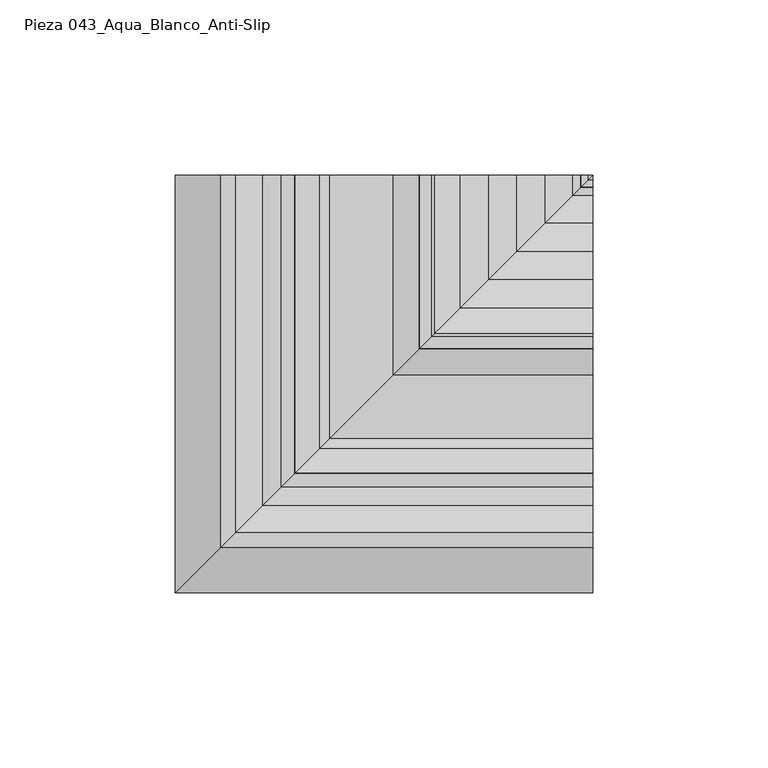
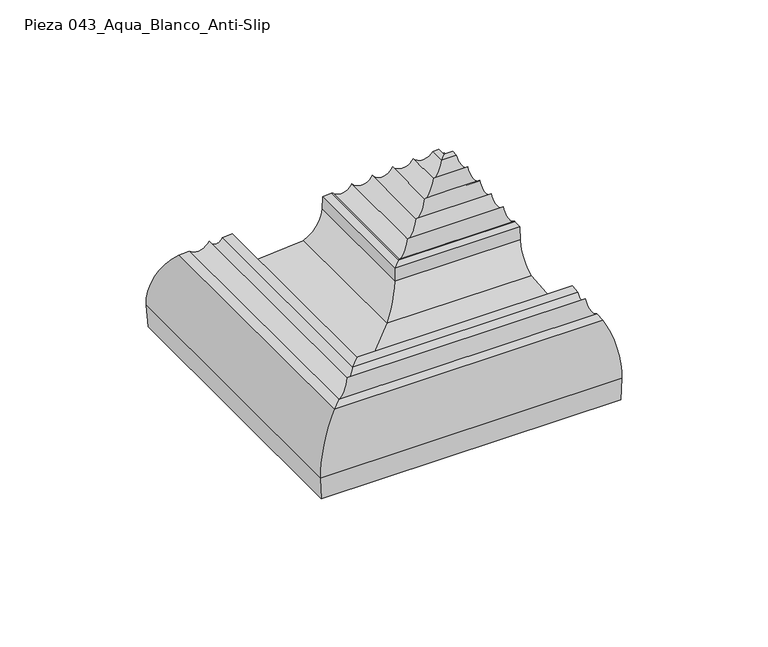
"""IFC4 building model written with IfcOpenShell, lengths in millimetres: proxy geometry, ROSA GRES_043 : Pieza 043_Aqua_Blanco_Anti-Slip."""

from ifc_helpers import new_model, si_unit, frame, origin, place, context, project, spatial, polyline, circle_curve, ellipse_curve, source, transform, mapped, element, save
from ifc_brep_helpers import plane_surface, cylinder_surface, revolved_surface, advanced_brep


def pieza_043_aqua_blanco_anti_slip_ae11da6b(model_context):
    return source(origin(), model_context, "Body", "AdvancedBrep", [
        advanced_brep(
        [(14.4453652, 119.0, 174.3159971), (0.7606998, 119.0, 173.202129), (0.0, 119.0, 182.547869), (12.8459835, 119.0, 198.875801), (17.0075724, 119.0, 199.1796191), (24.7958268, 119.0, 200.6193952), (30.0056531, 119.0, 200.1538709), (33.9473302, 119.0, 200.4746837), (37.253141, 119.0, 176.172444), (118.9496499, 14.4957154, 174.3159971), (118.9496499, 37.3034911, 176.172444), (118.9496499, 33.9976804, 200.4746837), (118.9496499, 30.0560033, 200.1538709), (118.9496499, 24.8461769, 200.6193952), (118.9496499, 17.0579226, 199.1796191), (118.9496499, 12.8963336, 198.875801), (118.9496499, 0.0503501, 182.547869), (118.9496499, 0.8110499, 173.202129), (14.4453652, 14.4957154, 174.3159971), (0.7606998, 0.8110499, 173.202129), (0.0, 0.0503501, 182.547869), (12.8459835, 12.8963336, 198.875801), (17.0075724, 17.0579226, 199.1796191), (24.7958268, 24.8461769, 200.6193952), (30.0056531, 30.0560033, 200.1538709), (33.9473302, 33.9976804, 200.4746837), (37.253141, 37.3034911, 176.172444)],
        [
            (0, 1),
            (1, 2),
            (2, 3, circle_curve(frame((15.2247132, 119.0, 183.7870899), z_axis=(0.0, 1.0, 0.0), x_axis=(-1.0, 0.0, 0.0)), 15.2750633)),
            (3, 4),
            (4, 5, circle_curve(frame((20.3719636, 119.0, 202.7650351), z_axis=(0.0, -1.0, 0.0), x_axis=(-1.0, 0.0, 0.0)), 4.9167404)),
            (5, 6, circle_curve(frame((27.4682931, 119.0, 201.142641), z_axis=(0.0, -1.0, 0.0), x_axis=(-1.0, 0.0, 0.0)), 2.7232081)),
            (6, 7),
            (7, 8),
            (8, 0, circle_curve(frame((26.0256757, 119.0, 173.0767428), z_axis=(0.0, -1.0, 0.0), x_axis=(-1.0, 0.0, 0.0)), 11.6464304)),
            (9, 10, circle_curve(frame((118.9496499, 26.0760259, 173.0767428), z_axis=(-1.0, 0.0, 0.0), x_axis=(0.0, -1.0, 0.0)), 11.6464304)),
            (10, 11),
            (11, 12),
            (12, 13, circle_curve(frame((118.9496499, 27.5186432, 201.142641), z_axis=(-1.0, 0.0, 0.0), x_axis=(0.0, -1.0, 0.0)), 2.7232081)),
            (13, 14, circle_curve(frame((118.9496499, 20.4223138, 202.7650351), z_axis=(-1.0, 0.0, 0.0), x_axis=(0.0, -1.0, 0.0)), 4.9167404)),
            (14, 15),
            (15, 16, circle_curve(frame((118.9496499, 15.2750633, 183.7870899), z_axis=(1.0, 0.0, 0.0), x_axis=(0.0, -1.0, 0.0)), 15.2750633)),
            (16, 17),
            (17, 9),
            (0, 18),
            (18, 19),
            (19, 1),
            (19, 20),
            (20, 2),
            (20, 21, ellipse_curve(frame((15.2247132, 15.2750633, 183.7870899), z_axis=(-0.707106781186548, 0.7071067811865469, 0.0), x_axis=(0.7071067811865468, 0.7071067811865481, 0.0)), 21.6022017, 15.2750633)),
            (21, 3),
            (21, 22),
            (22, 4),
            (22, 23, ellipse_curve(frame((20.3719636, 20.4223138, 202.7650351), z_axis=(0.707106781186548, -0.7071067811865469, 0.0), x_axis=(-0.7071067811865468, -0.7071067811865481, 0.0)), 6.9533209, 4.9167404)),
            (23, 5),
            (23, 24, ellipse_curve(frame((27.4682931, 27.5186432, 201.142641), z_axis=(0.707106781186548, -0.7071067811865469, 0.0), x_axis=(-0.7071067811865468, -0.7071067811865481, 0.0)), 3.8511979, 2.7232081)),
            (24, 6),
            (24, 25),
            (25, 7),
            (25, 26),
            (26, 8),
            (26, 18, ellipse_curve(frame((26.0256757, 26.0760259, 173.0767428), z_axis=(0.707106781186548, -0.7071067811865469, 0.0), x_axis=(-0.7071067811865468, -0.7071067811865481, 0.0)), 16.4705399, 11.6464304)),
            (18, 9),
            (17, 19),
            (16, 20),
            (15, 21),
            (14, 22),
            (13, 23),
            (12, 24),
            (11, 25),
            (10, 26),
        ],
        [
            plane_surface(frame((-0.0503501, 119.0, 0.0), z_axis=(0.0, 1.0, 0.0), x_axis=(0.0, 0.0, 1.0))),
            plane_surface(frame((118.9496499, 0.0, 0.0), z_axis=(1.0, 0.0, 0.0), x_axis=(0.0, 0.0, 1.0))),
            plane_surface(frame((14.4453652, 119.0, 174.3159971), z_axis=(0.0811270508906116, 0.0, -0.9967037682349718), x_axis=(0.0, -1.0, 0.0))),
            plane_surface(frame((0.7606998, 119.0, 173.202129), z_axis=(-0.9967037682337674, 0.0, -0.08112705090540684), x_axis=(0.0, -1.0, 0.0))),
            cylinder_surface(frame((15.2247132, 119.0, 183.7870899), z_axis=(0.0, 1.0, 0.0), x_axis=(-1.0, 0.0, 0.0)), 15.2750633),
            plane_surface(frame((12.8459835, 119.0, 198.875801), z_axis=(-0.07281152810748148, 0.0, 0.9973457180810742), x_axis=(0.0, -1.0, 0.0))),
            revolved_surface(polyline([(15.4552232, 15.505573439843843, 202.7650351), (15.4552232, 119.0, 202.7650351)]), (20.3719636, 119.0, 202.7650351), (0.0, -1.0, 0.0)),
            revolved_surface(polyline([(24.745085, 24.79543504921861, 201.142641), (24.745085, 119.0, 201.142641)]), (27.4682931, 119.0, 201.142641), (0.0, -1.0, 0.0)),
            plane_surface(frame((30.0056531, 119.0, 200.1538709), z_axis=(-0.08112168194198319, 0.0, 0.9967042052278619), x_axis=(0.0, -1.0, 0.0))),
            plane_surface(frame((33.9473302, 119.0, 200.4746837), z_axis=(0.9908744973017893, 0.0, 0.13478772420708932), x_axis=(0.0, -1.0, 0.0))),
            revolved_surface(polyline([(14.379245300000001, 14.42959544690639, 173.0767428), (14.379245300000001, 119.0, 173.0767428)]), (26.0256757, 119.0, 173.0767428), (0.0, -1.0, 0.0)),
            plane_surface(frame((14.4453652, 14.4957154, 174.3159971), z_axis=(0.0, 0.0811270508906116, -0.9967037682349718), x_axis=(1.0, 0.0, 0.0))),
            plane_surface(frame((0.7606998, 0.8110499, 173.202129), z_axis=(0.0, -0.9967037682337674, -0.08112705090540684), x_axis=(1.0, 0.0, 0.0))),
            cylinder_surface(frame((-0.0503501, 15.2750633, 183.7870899), z_axis=(-1.0, 0.0, 0.0), x_axis=(0.0, -1.0, 0.0)), 15.2750633),
            plane_surface(frame((12.8459835, 12.8963336, 198.875801), z_axis=(0.0, -0.07281152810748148, 0.9973457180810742), x_axis=(1.0, 0.0, 0.0))),
            revolved_surface(polyline([(118.9496499, 15.505573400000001, 202.7650351), (15.455223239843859, 15.505573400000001, 202.7650351)]), (-0.0503501, 20.4223138, 202.7650351), (1.0, 0.0, 0.0)),
            revolved_surface(polyline([(118.9496499, 24.7954351, 201.142641), (24.74508494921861, 24.7954351, 201.142641)]), (-0.0503501, 27.5186432, 201.142641), (1.0, 0.0, 0.0)),
            plane_surface(frame((30.0056531, 30.0560033, 200.1538709), z_axis=(0.0, -0.08112168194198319, 0.9967042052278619), x_axis=(1.0, 0.0, 0.0))),
            plane_surface(frame((33.9473302, 33.9976804, 200.4746837), z_axis=(0.0, 0.9908744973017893, 0.13478772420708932), x_axis=(1.0, 0.0, 0.0))),
            revolved_surface(polyline([(118.9496499, 14.429595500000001, 173.0767428), (14.379245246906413, 14.429595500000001, 173.0767428)]), (-0.0503501, 26.0760259, 173.0767428), (1.0, 0.0, 0.0)),
        ],
        [
            (0, [[1, 2, 3, 4, 5, 6, 7, 8, 9]]),
            (1, [[10, 11, 12, 13, 14, 15, 16, 17, 18]]),
            (2, [[-1, 19, 20, 21]]),
            (3, [[-2, -21, 22, 23]]),
            (4, [[-3, -23, 24, 25]]),
            (5, [[-4, -25, 26, 27]]),
            (6, [[-5, -27, 28, 29]]),
            (7, [[-6, -29, 30, 31]]),
            (8, [[-7, -31, 32, 33]]),
            (9, [[-8, -33, 34, 35]]),
            (10, [[-9, -35, 36, -19]]),
            (11, [[-20, 37, -18, 38]]),
            (12, [[-22, -38, -17, 39]]),
            (13, [[-24, -39, -16, 40]]),
            (14, [[-26, -40, -15, 41]]),
            (15, [[-28, -41, -14, 42]]),
            (16, [[-30, -42, -13, 43]]),
            (17, [[-32, -43, -12, 44]]),
            (18, [[-34, -44, -11, 45]]),
            (19, [[-36, -45, -10, -37]]),
        ],
    ),
        advanced_brep(
        [(37.253141, 37.3034911, 176.172444), (33.9473302, 33.9976804, 200.4746837), (33.9473302, 119.0, 200.4746837), (37.253141, 119.0, 176.172444), (118.9496499, 37.3034911, 176.172444), (118.9496499, 33.9976804, 200.4746837), (41.0113038, 41.061654, 187.8896178), (41.0113038, 119.0, 187.8896178), (43.8961827, 43.9465329, 186.3216491), (43.8961827, 119.0, 186.3216491), (61.9386313, 61.9889815, 187.7902205), (61.9386313, 119.0, 187.7902205), (69.3734393, 69.4237894, 198.236672), (69.3734393, 119.0, 198.236672), (69.7290719, 69.7794221, 203.3871621), (69.7290719, 119.0, 203.3871621), (72.9835988, 73.033949, 203.6520655), (72.9835988, 119.0, 203.6520655), (73.7500971, 73.8004473, 203.3835555), (73.7500971, 119.0, 203.3835555), (81.0982828, 81.1486329, 204.8942251), (81.0982828, 119.0, 204.8942251), (89.1544888, 89.2048389, 205.555394), (89.1544888, 119.0, 205.555394), (97.2003042, 97.2506544, 206.1928503), (97.2003042, 119.0, 206.1928503), (105.3453041, 105.3956543, 206.836894), (105.3453041, 119.0, 206.836894), (113.1371807, 113.1875309, 207.0070959), (113.1371807, 119.0, 207.0070959), (115.4202539, 115.470604, 207.1930072), (115.4202539, 119.0, 207.1930072), (115.6049701, 115.6553202, 204.9236084), (115.6049701, 119.0, 204.9236084), (117.5520053, 117.6023554, 205.0820876), (117.5520053, 119.0, 205.0820876), (118.9496499, 119.0, 187.9110258), (118.9496499, 119.0, 182.8221596), (108.4134013, 108.4637515, 181.9645582), (108.4134013, 119.0, 181.9645582), (71.9209601, 71.9713103, 178.9942432), (71.9209601, 119.0, 178.9942432), (118.9496499, 41.061654, 187.8896178), (118.9496499, 43.9465329, 186.3216491), (118.9496499, 61.9889815, 187.7902205), (118.9496499, 69.4237894, 198.236672), (118.9496499, 69.7794221, 203.3871621), (118.9496499, 73.033949, 203.6520655), (118.9496499, 73.8004473, 203.3835555), (118.9496499, 81.1486329, 204.8942251), (118.9496499, 89.2048389, 205.555394), (118.9496499, 97.2506544, 206.1928503), (118.9496499, 105.3956543, 206.836894), (118.9496499, 113.1875309, 207.0070959), (118.9496499, 115.470604, 207.1930072), (118.9496499, 115.6553202, 204.9236084), (118.9496499, 117.6023554, 205.0820876), (118.9496499, 108.4637515, 181.9645582), (118.9496499, 71.9713103, 178.9942432)],
        [
            (0, 1),
            (1, 2),
            (2, 3),
            (3, 0),
            (0, 4),
            (4, 5),
            (5, 1),
            (1, 6, ellipse_curve(frame((107.0308257, 107.0811758, 233.2212806), z_axis=(0.707106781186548, -0.7071067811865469, 0.0), x_axis=(-0.7071067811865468, -0.7071067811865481, 0.0)), 113.2566723, 80.084561)),
            (6, 7),
            (7, 2, circle_curve(frame((107.0308257, 119.0, 233.2212806), z_axis=(0.0, 1.0, 0.0), x_axis=(-1.0, 0.0, 0.0)), 80.084561)),
            (6, 8, ellipse_curve(frame((43.6528016, 43.7031517, 189.3117604), z_axis=(0.707106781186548, -0.7071067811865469, 0.0), x_axis=(-0.7071067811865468, -0.7071067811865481, 0.0)), 4.2426407, 3.0)),
            (8, 9),
            (9, 7, circle_curve(frame((43.6528016, 119.0, 189.3117604), z_axis=(0.0, 1.0, 0.0), x_axis=(-1.0, 0.0, 0.0)), 3.0)),
            (8, 10),
            (10, 11),
            (11, 9),
            (10, 12, ellipse_curve(frame((57.1290983, 57.1794484, 199.0821231), z_axis=(0.707106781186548, -0.7071067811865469, 0.0), x_axis=(-0.7071067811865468, -0.7071067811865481, 0.0)), 17.3573428, 12.2734948)),
            (12, 13),
            (13, 11, circle_curve(frame((57.1290983, 119.0, 199.0821231), z_axis=(0.0, 1.0, 0.0), x_axis=(-1.0, 0.0, 0.0)), 12.2734948)),
            (12, 14),
            (14, 15),
            (15, 13),
            (14, 16),
            (16, 17),
            (17, 15),
            (16, 18, ellipse_curve(frame((73.0647259, 73.115076, 202.6553617), z_axis=(-0.707106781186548, 0.7071067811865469, 0.0), x_axis=(0.7071067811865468, 0.7071067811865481, 0.0)), 1.4142136, 1.0)),
            (18, 19),
            (19, 17, circle_curve(frame((73.0647259, 119.0, 202.6553617), z_axis=(0.0, -1.0, 0.0), x_axis=(-1.0, 0.0, 0.0)), 1.0)),
            (18, 20, ellipse_curve(frame((76.8929781, 76.9433283, 206.722806), z_axis=(0.707106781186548, -0.7071067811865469, 0.0), x_axis=(-0.7071067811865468, -0.7071067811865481, 0.0)), 6.4851052, 4.5856619)),
            (20, 21),
            (21, 19, circle_curve(frame((76.8929781, 119.0, 206.722806), z_axis=(0.0, 1.0, 0.0), x_axis=(-1.0, 0.0, 0.0)), 4.5856619)),
            (20, 22, ellipse_curve(frame((84.9491841, 84.9995343, 207.3839748), z_axis=(0.707106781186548, -0.7071067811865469, 0.0), x_axis=(-0.7071067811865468, -0.7071067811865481, 0.0)), 6.4851052, 4.5856619)),
            (22, 23),
            (23, 21, circle_curve(frame((84.9491841, 119.0, 207.3839748), z_axis=(0.0, 1.0, 0.0), x_axis=(-1.0, 0.0, 0.0)), 4.5856619)),
            (22, 24, ellipse_curve(frame((93.0053901, 93.0557403, 208.0451437), z_axis=(0.707106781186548, -0.7071067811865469, 0.0), x_axis=(-0.7071067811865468, -0.7071067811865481, 0.0)), 6.4851052, 4.5856619)),
            (24, 25),
            (25, 23, circle_curve(frame((93.0053901, 119.0, 208.0451437), z_axis=(0.0, 1.0, 0.0), x_axis=(-1.0, 0.0, 0.0)), 4.5856619)),
            (24, 26, ellipse_curve(frame((101.0644057, 101.1147559, 209.1504161), z_axis=(0.707106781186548, -0.7071067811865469, 0.0), x_axis=(-0.7071067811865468, -0.7071067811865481, 0.0)), 6.8816387, 4.8660534)),
            (26, 27),
            (27, 25, circle_curve(frame((101.0644057, 119.0, 209.1504161), z_axis=(0.0, 1.0, 0.0), x_axis=(-1.0, 0.0, 0.0)), 4.8660534)),
            (26, 28, ellipse_curve(frame((109.1785237, 109.2288739, 209.7932705), z_axis=(0.707106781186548, -0.7071067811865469, 0.0), x_axis=(-0.7071067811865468, -0.7071067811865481, 0.0)), 6.8459819, 4.8408403)),
            (28, 29),
            (29, 27, circle_curve(frame((109.1785237, 119.0, 209.7932705), z_axis=(0.0, 1.0, 0.0), x_axis=(-1.0, 0.0, 0.0)), 4.8408403)),
            (28, 30),
            (30, 31),
            (31, 29),
            (30, 32),
            (32, 33),
            (33, 31),
            (32, 34),
            (34, 35),
            (35, 33),
            (34, 36),
            (36, 35),
            (37, 38),
            (38, 39),
            (39, 37),
            (38, 40, ellipse_curve(frame((91.2336167, 91.2839669, 167.3774726), z_axis=(0.707106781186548, -0.7071067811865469, 0.0), x_axis=(-0.7071067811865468, -0.7071067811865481, 0.0)), 31.872498, 22.5372595)),
            (40, 41),
            (41, 39, circle_curve(frame((91.2336167, 119.0, 167.3774726), z_axis=(0.0, 1.0, 0.0), x_axis=(-1.0, 0.0, 0.0)), 22.5372595)),
            (40, 0),
            (3, 41),
            (5, 42, circle_curve(frame((118.9496499, 107.0811758, 233.2212806), z_axis=(1.0, 0.0, 0.0), x_axis=(0.0, -1.0, 0.0)), 80.084561)),
            (42, 6),
            (42, 43, circle_curve(frame((118.9496499, 43.7031517, 189.3117604), z_axis=(1.0, 0.0, 0.0), x_axis=(0.0, -1.0, 0.0)), 3.0)),
            (43, 8),
            (43, 44),
            (44, 10),
            (44, 45, circle_curve(frame((118.9496499, 57.1794484, 199.0821231), z_axis=(1.0, 0.0, 0.0), x_axis=(0.0, -1.0, 0.0)), 12.2734948)),
            (45, 12),
            (45, 46),
            (46, 14),
            (46, 47),
            (47, 16),
            (47, 48, circle_curve(frame((118.9496499, 73.115076, 202.6553617), z_axis=(-1.0, 0.0, 0.0), x_axis=(0.0, -1.0, 0.0)), 1.0)),
            (48, 18),
            (48, 49, circle_curve(frame((118.9496499, 76.9433283, 206.722806), z_axis=(1.0, 0.0, 0.0), x_axis=(0.0, -1.0, 0.0)), 4.5856619)),
            (49, 20),
            (49, 50, circle_curve(frame((118.9496499, 84.9995343, 207.3839748), z_axis=(1.0, 0.0, 0.0), x_axis=(0.0, -1.0, 0.0)), 4.5856619)),
            (50, 22),
            (50, 51, circle_curve(frame((118.9496499, 93.0557403, 208.0451437), z_axis=(1.0, 0.0, 0.0), x_axis=(0.0, -1.0, 0.0)), 4.5856619)),
            (51, 24),
            (51, 52, circle_curve(frame((118.9496499, 101.1147559, 209.1504161), z_axis=(1.0, 0.0, 0.0), x_axis=(0.0, -1.0, 0.0)), 4.8660534)),
            (52, 26),
            (52, 53, circle_curve(frame((118.9496499, 109.2288739, 209.7932705), z_axis=(1.0, 0.0, 0.0), x_axis=(0.0, -1.0, 0.0)), 4.8408403)),
            (53, 28),
            (53, 54),
            (54, 30),
            (54, 55),
            (55, 32),
            (55, 56),
            (56, 34),
            (56, 36),
            (37, 57),
            (57, 38),
            (57, 58, circle_curve(frame((118.9496499, 91.2839669, 167.3774726), z_axis=(1.0, 0.0, 0.0), x_axis=(0.0, -1.0, 0.0)), 22.5372595)),
            (58, 40),
            (58, 4),
            (37, 36),
        ],
        [
            plane_surface(frame((37.253141, 125.0, 176.172444), z_axis=(-0.9908744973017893, 0.0, -0.13478772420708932), x_axis=(0.0, -1.0, 0.0))),
            plane_surface(frame((37.253141, 37.3034911, 176.172444), z_axis=(0.0, -0.9908744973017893, -0.13478772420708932), x_axis=(1.0, 0.0, 0.0))),
            revolved_surface(polyline([(26.9462647, 26.996614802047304, 233.2212806), (26.9462647, 187.1657367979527, 233.2212806)]), (107.0308257, 125.0, 233.2212806), (0.0, -1.0, 0.0)),
            revolved_surface(polyline([(40.6528016, 40.70315169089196, 189.3117604), (40.6528016, 119.0, 189.3117604)]), (43.6528016, 125.0, 189.3117604), (0.0, -1.0, 0.0)),
            plane_surface(frame((43.8961827, 125.0, 186.3216491), z_axis=(-0.08112705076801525, 0.0, 0.9967037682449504), x_axis=(0.0, -1.0, 0.0))),
            revolved_surface(polyline([(44.8556035, 44.905953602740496, 199.0821231), (44.8556035, 119.0, 199.0821231)]), (57.1290983, 125.0, 199.0821231), (0.0, -1.0, 0.0)),
            plane_surface(frame((69.3734393, 125.0, 198.236672), z_axis=(-0.9976246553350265, 0.0, 0.06888430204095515), x_axis=(0.0, -1.0, 0.0))),
            plane_surface(frame((69.7290719, 125.0, 203.3871621), z_axis=(-0.08112705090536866, 0.0, 0.9967037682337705), x_axis=(0.0, -1.0, 0.0))),
            cylinder_surface(frame((73.0647259, 125.0, 202.6553617), z_axis=(0.0, 1.0, 0.0), x_axis=(-1.0, 0.0, 0.0)), 1.0),
            revolved_surface(polyline([(72.30731619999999, 72.35766643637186, 206.722806), (72.30731619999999, 119.0, 206.722806)]), (76.8929781, 125.0, 206.722806), (0.0, -1.0, 0.0)),
            revolved_surface(polyline([(80.36352219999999, 80.41387243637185, 207.3839748), (80.36352219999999, 119.0, 207.3839748)]), (84.9491841, 125.0, 207.3839748), (0.0, -1.0, 0.0)),
            revolved_surface(polyline([(88.4197282, 88.47007843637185, 208.0451437), (88.4197282, 119.0, 208.0451437)]), (93.0053901, 125.0, 208.0451437), (0.0, -1.0, 0.0)),
            revolved_surface(polyline([(96.1983523, 96.24870250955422, 209.1504161), (96.1983523, 119.0, 209.1504161)]), (101.0644057, 125.0, 209.1504161), (0.0, -1.0, 0.0)),
            revolved_surface(polyline([(104.3376834, 104.38803367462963, 209.7932705), (104.3376834, 119.0, 209.7932705)]), (109.1785237, 125.0, 209.7932705), (0.0, -1.0, 0.0)),
            plane_surface(frame((113.1371807, 125.0, 207.0070959), z_axis=(-0.08116163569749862, 0.0, 0.9967009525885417), x_axis=(0.0, -1.0, 0.0))),
            plane_surface(frame((115.4202539, 125.0, 207.1930072), z_axis=(0.9967038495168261, 0.0, 0.0811260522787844), x_axis=(0.0, -1.0, 0.0))),
            plane_surface(frame((115.6049701, 125.0, 204.9236084), z_axis=(-0.08112681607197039, 0.0, 0.9967037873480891), x_axis=(0.0, -1.0, 0.0))),
            plane_surface(frame((117.5520053, 125.0, 205.0820876), z_axis=(0.9967037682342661, 0.0, 0.08112705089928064), x_axis=(0.0, -1.0, 0.0))),
            plane_surface(frame((119.3611337, 125.0, 182.8556525), z_axis=(0.08112703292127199, 0.0, -0.9967037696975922), x_axis=(0.0, -1.0, 0.0))),
            revolved_surface(polyline([(68.6963572, 68.7467074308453, 167.3774726), (68.6963572, 119.0, 167.3774726)]), (91.2336167, 125.0, 167.3774726), (0.0, -1.0, 0.0)),
            plane_surface(frame((71.9209601, 125.0, 178.9942432), z_axis=(0.08112705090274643, 0.0, -0.996703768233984), x_axis=(0.0, -1.0, 0.0))),
            revolved_surface(polyline([(187.11538669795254, 26.996614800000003, 233.2212806), (26.94626470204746, 26.996614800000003, 233.2212806)]), (-0.0503501, 107.0811758, 233.2212806), (1.0, 0.0, 0.0)),
            revolved_surface(polyline([(118.9496499, 40.7031517, 189.3117604), (40.65280159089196, 40.7031517, 189.3117604)]), (-0.0503501, 43.7031517, 189.3117604), (1.0, 0.0, 0.0)),
            plane_surface(frame((43.8961827, 43.9465329, 186.3216491), z_axis=(0.0, -0.08112705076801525, 0.9967037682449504), x_axis=(1.0, 0.0, 0.0))),
            revolved_surface(polyline([(118.9496499, 44.9059536, 199.0821231), (44.85560350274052, 44.9059536, 199.0821231)]), (-0.0503501, 57.1794484, 199.0821231), (1.0, 0.0, 0.0)),
            plane_surface(frame((69.3734393, 69.4237894, 198.236672), z_axis=(0.0, -0.9976246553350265, 0.06888430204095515), x_axis=(1.0, 0.0, 0.0))),
            plane_surface(frame((69.7290719, 69.7794221, 203.3871621), z_axis=(0.0, -0.08112705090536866, 0.9967037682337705), x_axis=(1.0, 0.0, 0.0))),
            cylinder_surface(frame((-0.0503501, 73.115076, 202.6553617), z_axis=(-1.0, 0.0, 0.0), x_axis=(0.0, -1.0, 0.0)), 1.0),
            revolved_surface(polyline([(118.9496499, 72.3576664, 206.722806), (72.30731623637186, 72.3576664, 206.722806)]), (-0.0503501, 76.9433283, 206.722806), (1.0, 0.0, 0.0)),
            revolved_surface(polyline([(118.9496499, 80.41387239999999, 207.3839748), (80.36352223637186, 80.41387239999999, 207.3839748)]), (-0.0503501, 84.9995343, 207.3839748), (1.0, 0.0, 0.0)),
            revolved_surface(polyline([(118.9496499, 88.47007839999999, 208.0451437), (88.41972823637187, 88.47007839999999, 208.0451437)]), (-0.0503501, 93.0557403, 208.0451437), (1.0, 0.0, 0.0)),
            revolved_surface(polyline([(118.9496499, 96.24870250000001, 209.1504161), (96.19835230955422, 96.24870250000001, 209.1504161)]), (-0.0503501, 101.1147559, 209.1504161), (1.0, 0.0, 0.0)),
            revolved_surface(polyline([(118.9496499, 104.3880336, 209.7932705), (104.33768347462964, 104.3880336, 209.7932705)]), (-0.0503501, 109.2288739, 209.7932705), (1.0, 0.0, 0.0)),
            plane_surface(frame((113.1371807, 113.1875309, 207.0070959), z_axis=(0.0, -0.08116163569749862, 0.9967009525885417), x_axis=(1.0, 0.0, 0.0))),
            plane_surface(frame((115.4202539, 115.470604, 207.1930072), z_axis=(0.0, 0.9967038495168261, 0.0811260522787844), x_axis=(1.0, 0.0, 0.0))),
            plane_surface(frame((115.6049701, 115.6553202, 204.9236084), z_axis=(0.0, -0.08112681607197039, 0.9967037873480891), x_axis=(1.0, 0.0, 0.0))),
            plane_surface(frame((117.5520053, 117.6023554, 205.0820876), z_axis=(0.0, 0.9967037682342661, 0.08112705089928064), x_axis=(1.0, 0.0, 0.0))),
            plane_surface(frame((119.3611337, 119.4114839, 182.8556525), z_axis=(0.0, 0.08112703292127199, -0.9967037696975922), x_axis=(1.0, 0.0, 0.0))),
            revolved_surface(polyline([(118.9496499, 68.74670739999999, 167.3774726), (68.69635723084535, 68.74670739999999, 167.3774726)]), (-0.0503501, 91.2839669, 167.3774726), (1.0, 0.0, 0.0)),
            plane_surface(frame((71.9209601, 71.9713103, 178.9942432), z_axis=(0.0, 0.08112705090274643, -0.996703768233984), x_axis=(1.0, 0.0, 0.0))),
            plane_surface(frame((118.9496499, 120.0, 216.714655), z_axis=(1.0, 0.0, 0.0), x_axis=(0.0, 0.0, -1.0))),
            plane_surface(frame((0.0503501, 119.0, 216.714655), z_axis=(0.0, 1.0, 0.0), x_axis=(0.0, 0.0, -1.0))),
        ],
        [
            (0, [[1, 2, 3, 4]]),
            (1, [[-1, 5, 6, 7]]),
            (2, [[8, 9, 10, -2]]),
            (3, [[11, 12, 13, -9]]),
            (4, [[14, 15, 16, -12]]),
            (5, [[17, 18, 19, -15]]),
            (6, [[20, 21, 22, -18]]),
            (7, [[23, 24, 25, -21]]),
            (8, [[26, 27, 28, -24]]),
            (9, [[29, 30, 31, -27]]),
            (10, [[32, 33, 34, -30]]),
            (11, [[35, 36, 37, -33]]),
            (12, [[38, 39, 40, -36]]),
            (13, [[41, 42, 43, -39]]),
            (14, [[44, 45, 46, -42]]),
            (15, [[47, 48, 49, -45]]),
            (16, [[50, 51, 52, -48]]),
            (17, [[53, 54, -51]]),
            (18, [[55, 56, 57]]),
            (19, [[58, 59, 60, -56]]),
            (20, [[61, -4, 62, -59]]),
            (21, [[-8, -7, 63, 64]]),
            (22, [[-11, -64, 65, 66]]),
            (23, [[-14, -66, 67, 68]]),
            (24, [[-17, -68, 69, 70]]),
            (25, [[-20, -70, 71, 72]]),
            (26, [[-23, -72, 73, 74]]),
            (27, [[-26, -74, 75, 76]]),
            (28, [[-29, -76, 77, 78]]),
            (29, [[-32, -78, 79, 80]]),
            (30, [[-35, -80, 81, 82]]),
            (31, [[-38, -82, 83, 84]]),
            (32, [[-41, -84, 85, 86]]),
            (33, [[-44, -86, 87, 88]]),
            (34, [[-47, -88, 89, 90]]),
            (35, [[-50, -90, 91, 92]]),
            (36, [[-53, -92, 93]]),
            (37, [[-55, 94, 95]]),
            (38, [[-58, -95, 96, 97]]),
            (39, [[-61, -97, 98, -5]]),
            (40, [[-6, -98, -96, -94, 99, -93, -91, -89, -87, -85, -83, -81, -79, -77, -75, -73, -71, -69, -67, -65, -63]]),
            (41, [[-3, -10, -13, -16, -19, -22, -25, -28, -31, -34, -37, -40, -43, -46, -49, -52, -54, -99, -57, -60, -62]]),
        ],
    ),
    ])


if __name__ == "__main__":
    model = new_model("IFC4")
    model_context = context("Model", 3, world=origin())
    ifc_project = project(units=[si_unit("LENGTHUNIT", "METRE", prefix="MILLI")], contexts=[model_context])
    site = spatial("IfcSite", under=ifc_project)
    building = spatial("IfcBuilding", under=site)
    placement = place(None, origin())
    pieza_043_aqua_blanco_anti_slip_shape = pieza_043_aqua_blanco_anti_slip_ae11da6b(model_context)
    element("IfcBuildingElementProxy", 1, Name="ROSA GRES_043 : Pieza 043_Aqua_Blanco_Anti-Slip", ObjectType="ROSA GRES_043 : Pieza 043_Aqua_Blanco_Anti-Slip", at=placement, inside=building, context=model_context, shape_type="MappedRepresentation", body=[
        mapped(pieza_043_aqua_blanco_anti_slip_shape, transform((0.0, 0.0, 0.0), x_axis=(1.0, 0.0, 0.0), y_axis=(0.0, 1.0, 0.0), z_axis=(0.0, 0.0, 1.0))),
    ])
    save(model, "model.ifc")
